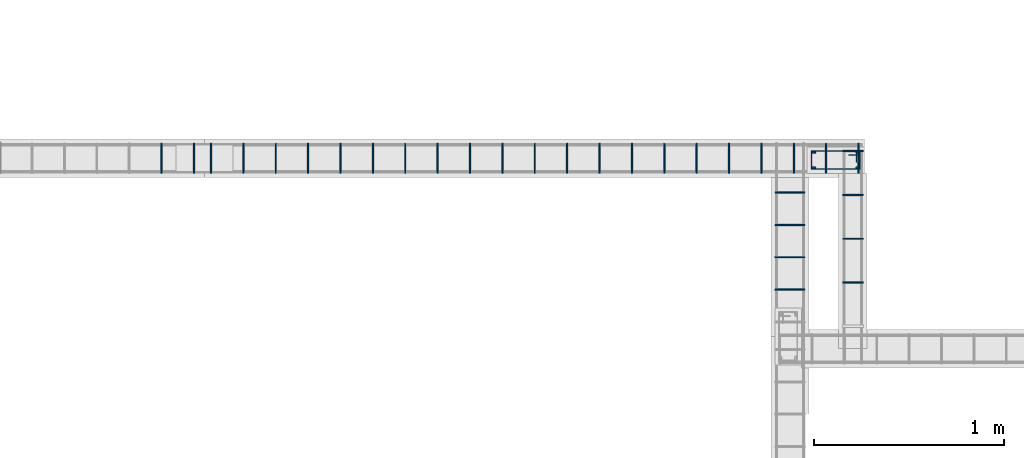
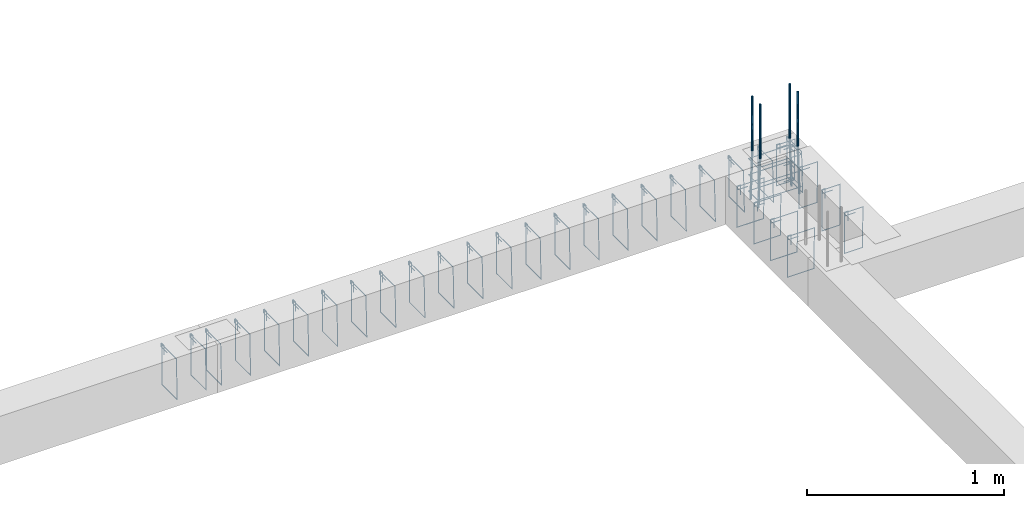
# One storey, part 139 of 150: 38 reinforcing bars.
"""IFC4 building model written with IfcOpenShell, lengths in centimetres."""

from ifc_helpers import new_model, entity, si_unit, derived_unit, frame, origin_with_axes, place, context, project, spatial, source, transform, mapped, element, save


model = new_model("IFC4")

# Units and contexts
model_context = context("Model", 3, precision=1e-05, world=origin_with_axes(), identifier="Body")
ifc_project = project(units=[si_unit("LENGTHUNIT", "METRE", prefix="CENTI"), si_unit("VOLUMEUNIT", "CUBIC_METRE"), si_unit("AREAUNIT", "SQUARE_METRE"), si_unit("POWERUNIT", "WATT"), si_unit("LUMINOUSFLUXUNIT", "LUMEN"), si_unit("ELECTRICCURRENTUNIT", "AMPERE"), si_unit("PRESSUREUNIT", "PASCAL", prefix="KILO"), si_unit("MASSUNIT", "GRAM", prefix="KILO"), si_unit("PLANEANGLEUNIT", "RADIAN"), derived_unit("VOLUMETRICFLOWRATEUNIT", [(si_unit("LENGTHUNIT", "METRE"), 3), (si_unit("TIMEUNIT", "SECOND"), -1)])], contexts=[model_context])

# Site, building, storey
site_placement = place(None, frame((-4000.0, 0.0, 0.0), z_axis=(0.0, 0.0, 1.0), x_axis=(1.0, 0.0, 0.0)))
site = spatial("IfcSite", under=ifc_project, at=site_placement, Name="PADRÃO")
building_placement = place(site_placement, frame((0.0, 0.0, -14.0)))
building = spatial("IfcBuilding", under=site, at=building_placement, Name="CRECHE PRÉ-ESCOLA TIPO 2")
placement = place(building_placement, origin_with_axes())
storey_placement = place(placement, frame((0.0, 0.0, 30.0), z_axis=(0.0, 0.0, 1.0), x_axis=(1.0, 0.0, 0.0)))
storey = spatial("IfcBuildingStorey", under=building, at=storey_placement, Name="VIGA BALDRAME", CompositionType="ELEMENT", Elevation=16.0)

# Reinforcing bars
shared_shape_1 = source(origin_with_axes(), model_context, "Body", "AdvancedSweptSolid", [
    entity("IfcSweptDiskSolid", entity("IfcCompositeCurve", [entity("IfcCompositeCurveSegment", "CONTINUOUS", True, entity("IfcPolyline", [entity("IfcCartesianPoint", [4.25, 21.75, 0.0]), entity("IfcCartesianPoint", [4.25, 27.75, 0.0])])), entity("IfcCompositeCurveSegment", "CONTINUOUS", True, entity("IfcPolyline", [entity("IfcCartesianPoint", [4.25, 27.75, 0.0]), entity("IfcCartesianPoint", [2.25, 27.75, 0.0])])), entity("IfcCompositeCurveSegment", "CONTINUOUS", True, entity("IfcPolyline", [entity("IfcCartesianPoint", [2.25, 27.75, 0.0]), entity("IfcCartesianPoint", [2.25, 2.25, 0.0])])), entity("IfcCompositeCurveSegment", "CONTINUOUS", True, entity("IfcPolyline", [entity("IfcCartesianPoint", [2.25, 2.25, 0.0]), entity("IfcCartesianPoint", [11.75, 2.25, 0.0])])), entity("IfcCompositeCurveSegment", "CONTINUOUS", True, entity("IfcPolyline", [entity("IfcCartesianPoint", [11.75, 2.25, 0.0]), entity("IfcCartesianPoint", [11.75, 27.75, -0.5])])), entity("IfcCompositeCurveSegment", "CONTINUOUS", True, entity("IfcPolyline", [entity("IfcCartesianPoint", [11.75, 27.75, -0.5]), entity("IfcCartesianPoint", [2.25, 27.75, -0.5])])), entity("IfcCompositeCurveSegment", "CONTINUOUS", True, entity("IfcPolyline", [entity("IfcCartesianPoint", [2.25, 27.75, -0.5]), entity("IfcCartesianPoint", [2.25, 25.75, -0.5])])), entity("IfcCompositeCurveSegment", "CONTINUOUS", True, entity("IfcPolyline", [entity("IfcCartesianPoint", [2.25, 25.75, -0.5]), entity("IfcCartesianPoint", [8.25, 25.75, -0.5])]))], False), 0.25),
])
for number, where, z_axis, x_axis, name in (
    (1, (3148.5, 4091.02, -15.0), (0.0, 0.0, 1.0), (0.0, -1.0, 0.0), "P22 - Estribo"),
    (2, (3148.5, 4091.02, -25.0), (0.0, 0.0, 1.0), (0.0, -1.0, 0.0), "P22 - Estribo"),
    (3, (3148.5, 4091.02, -5.0), (0.0, 0.0, 1.0), (0.0, -1.0, 0.0), "P22 - Estribo"),
):
    element("IfcReinforcingBar", number, at=place(storey_placement, frame(where, z_axis=z_axis, x_axis=x_axis)), inside=storey, Name=name, BarLength=0.0, CrossSectionArea=1.9634954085e-05, NominalDiameter=0.5, PredefinedType="MAIN", context=model_context, shape_type="MappedRepresentation", body=[
        mapped(shared_shape_1, transform((0.0, 0.0, 0.0), scale=1.0)),
    ])
shared_shape_2 = source(origin_with_axes(), model_context, "Body", "AdvancedSweptSolid", [
    entity("IfcSweptDiskSolid", entity("IfcCompositeCurve", [entity("IfcCompositeCurveSegment", "CONTINUOUS", True, entity("IfcPolyline", [entity("IfcCartesianPoint", [2.0, -6.0, 0.0]), entity("IfcCartesianPoint", [2.0, 0.0, 0.0])])), entity("IfcCompositeCurveSegment", "CONTINUOUS", True, entity("IfcPolyline", [entity("IfcCartesianPoint", [2.0, 0.0, 0.0]), entity("IfcCartesianPoint", [0.0, 0.0, 0.0])])), entity("IfcCompositeCurveSegment", "CONTINUOUS", True, entity("IfcPolyline", [entity("IfcCartesianPoint", [0.0, 0.0, 0.0]), entity("IfcCartesianPoint", [0.0, -25.5, 0.0])])), entity("IfcCompositeCurveSegment", "CONTINUOUS", True, entity("IfcPolyline", [entity("IfcCartesianPoint", [0.0, -25.5, 0.0]), entity("IfcCartesianPoint", [15.5, -25.5, 0.0])])), entity("IfcCompositeCurveSegment", "CONTINUOUS", True, entity("IfcPolyline", [entity("IfcCartesianPoint", [15.5, -25.5, 0.0]), entity("IfcCartesianPoint", [15.5, 0.0, 0.5])])), entity("IfcCompositeCurveSegment", "CONTINUOUS", True, entity("IfcPolyline", [entity("IfcCartesianPoint", [15.5, 0.0, 0.5]), entity("IfcCartesianPoint", [0.0, 0.0, 0.5])])), entity("IfcCompositeCurveSegment", "CONTINUOUS", True, entity("IfcPolyline", [entity("IfcCartesianPoint", [0.0, 0.0, 0.5]), entity("IfcCartesianPoint", [0.0, -2.0, 0.5])])), entity("IfcCompositeCurveSegment", "CONTINUOUS", True, entity("IfcPolyline", [entity("IfcCartesianPoint", [0.0, -2.0, 0.5]), entity("IfcCartesianPoint", [6.0, -2.0, 0.5])]))], False), 0.25),
])
for number, where, z_axis, x_axis, name in (
    (4, (2826.74, 4092.77, -2.25), (-1.0, 0.0, 0.0), (0.0, -1.0, 0.0), "V103 - Estribo"),
    (5, (2809.74, 4092.77, -2.25), (-1.0, 0.0, 0.0), (0.0, -1.0, 0.0), "V103 - Estribo"),
):
    element("IfcReinforcingBar", number, at=place(storey_placement, frame(where, z_axis=z_axis, x_axis=x_axis)), inside=storey, Name=name, BarLength=0.0, CrossSectionArea=1.9634954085e-05, NominalDiameter=0.5, PredefinedType="MAIN", context=model_context, shape_type="MappedRepresentation", body=[
        mapped(shared_shape_2, transform((0.0, 0.0, 0.0), scale=1.0)),
    ])
shared_shape_3 = source(origin_with_axes(), model_context, "Body", "AdvancedSweptSolid", [
    entity("IfcSweptDiskSolid", entity("IfcCompositeCurve", [entity("IfcCompositeCurveSegment", "CONTINUOUS", True, entity("IfcPolyline", [entity("IfcCartesianPoint", [2.0, -6.0, 0.0]), entity("IfcCartesianPoint", [2.0, 0.0, 0.0])])), entity("IfcCompositeCurveSegment", "CONTINUOUS", True, entity("IfcPolyline", [entity("IfcCartesianPoint", [2.0, 0.0, 0.0]), entity("IfcCartesianPoint", [0.0, 0.0, 0.0])])), entity("IfcCompositeCurveSegment", "CONTINUOUS", True, entity("IfcPolyline", [entity("IfcCartesianPoint", [0.0, 0.0, 0.0]), entity("IfcCartesianPoint", [0.0, -25.5, 0.0])])), entity("IfcCompositeCurveSegment", "CONTINUOUS", True, entity("IfcPolyline", [entity("IfcCartesianPoint", [0.0, -25.5, 0.0]), entity("IfcCartesianPoint", [15.5, -25.5, 0.0])])), entity("IfcCompositeCurveSegment", "CONTINUOUS", True, entity("IfcPolyline", [entity("IfcCartesianPoint", [15.5, -25.5, 0.0]), entity("IfcCartesianPoint", [15.5, 0.0, 0.5])])), entity("IfcCompositeCurveSegment", "CONTINUOUS", True, entity("IfcPolyline", [entity("IfcCartesianPoint", [15.5, 0.0, 0.5]), entity("IfcCartesianPoint", [0.0, 0.0, 0.5])])), entity("IfcCompositeCurveSegment", "CONTINUOUS", True, entity("IfcPolyline", [entity("IfcCartesianPoint", [0.0, 0.0, 0.5]), entity("IfcCartesianPoint", [0.0, -2.0, 0.5])])), entity("IfcCompositeCurveSegment", "CONTINUOUS", True, entity("IfcPolyline", [entity("IfcCartesianPoint", [0.0, -2.0, 0.5]), entity("IfcCartesianPoint", [6.0, -2.0, 0.5])]))], False), 0.25),
])
for number, where, z_axis, x_axis, name in (
    (6, (2852.705, 4092.77, -2.25), (-1.0, 0.0, 0.0), (0.0, -1.0, 0.0), "V103 - Estribo"),
    (7, (2835.705, 4092.77, -2.25), (-1.0, 0.0, 0.0), (0.0, -1.0, 0.0), "V103 - Estribo"),
    (8, (3022.705, 4092.77, -2.25), (-1.0, 0.0, 0.0), (0.0, -1.0, 0.0), "V103 - Estribo"),
    (9, (3005.705, 4092.77, -2.25), (-1.0, 0.0, 0.0), (0.0, -1.0, 0.0), "V103 - Estribo"),
    (10, (2988.705, 4092.77, -2.25), (-1.0, 0.0, 0.0), (0.0, -1.0, 0.0), "V103 - Estribo"),
    (11, (3124.705, 4092.77, -2.25), (-1.0, 0.0, 0.0), (0.0, -1.0, 0.0), "V103 - Estribo"),
    (12, (3039.705, 4092.77, -2.25), (-1.0, 0.0, 0.0), (0.0, -1.0, 0.0), "V103 - Estribo"),
    (13, (2920.705, 4092.77, -2.25), (-1.0, 0.0, 0.0), (0.0, -1.0, 0.0), "V103 - Estribo"),
    (14, (2869.705, 4092.77, -2.25), (-1.0, 0.0, 0.0), (0.0, -1.0, 0.0), "V103 - Estribo"),
    (15, (3056.705, 4092.77, -2.25), (-1.0, 0.0, 0.0), (0.0, -1.0, 0.0), "V103 - Estribo"),
    (16, (3073.705, 4092.77, -2.25), (-1.0, 0.0, 0.0), (0.0, -1.0, 0.0), "V103 - Estribo"),
    (17, (2971.705, 4092.77, -2.25), (-1.0, 0.0, 0.0), (0.0, -1.0, 0.0), "V103 - Estribo"),
    (18, (2954.705, 4092.77, -2.25), (-1.0, 0.0, 0.0), (0.0, -1.0, 0.0), "V103 - Estribo"),
    (19, (2886.705, 4092.77, -2.25), (-1.0, 0.0, 0.0), (0.0, -1.0, 0.0), "V103 - Estribo"),
    (20, (2903.705, 4092.77, -2.25), (-1.0, 0.0, 0.0), (0.0, -1.0, 0.0), "V103 - Estribo"),
    (21, (2937.705, 4092.77, -2.25), (-1.0, 0.0, 0.0), (0.0, -1.0, 0.0), "V103 - Estribo"),
    (22, (3141.705, 4092.77, -2.25), (-1.0, 0.0, 0.0), (0.0, -1.0, 0.0), "V103 - Estribo"),
    (23, (3158.705, 4092.77, -2.25), (-1.0, 0.0, 0.0), (0.0, -1.0, 0.0), "V103 - Estribo"),
    (24, (3175.705, 4092.77, -2.25), (-1.0, 0.0, 0.0), (0.0, -1.0, 0.0), "V103 - Estribo"),
    (25, (3107.705, 4092.77, -2.25), (-1.0, 0.0, 0.0), (0.0, -1.0, 0.0), "V103 - Estribo"),
    (26, (3090.705, 4092.77, -2.25), (-1.0, 0.0, 0.0), (0.0, -1.0, 0.0), "V103 - Estribo"),
):
    element("IfcReinforcingBar", number, at=place(storey_placement, frame(where, z_axis=z_axis, x_axis=x_axis)), inside=storey, Name=name, BarLength=0.0, CrossSectionArea=1.9634954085e-05, NominalDiameter=0.5, PredefinedType="MAIN", context=model_context, shape_type="MappedRepresentation", body=[
        mapped(shared_shape_3, transform((0.0, 0.0, 0.0), scale=1.0)),
    ])
shared_shape_4 = source(origin_with_axes(), model_context, "Body", "AdvancedSweptSolid", [
    entity("IfcSweptDiskSolid", entity("IfcCompositeCurve", [entity("IfcCompositeCurveSegment", "CONTINUOUS", True, entity("IfcPolyline", [entity("IfcCartesianPoint", [2.0, -6.0, 0.0]), entity("IfcCartesianPoint", [2.0, 0.0, 0.0])])), entity("IfcCompositeCurveSegment", "CONTINUOUS", True, entity("IfcPolyline", [entity("IfcCartesianPoint", [2.0, 0.0, 0.0]), entity("IfcCartesianPoint", [0.0, 0.0, 0.0])])), entity("IfcCompositeCurveSegment", "CONTINUOUS", True, entity("IfcPolyline", [entity("IfcCartesianPoint", [0.0, 0.0, 0.0]), entity("IfcCartesianPoint", [0.0, -25.5, 0.0])])), entity("IfcCompositeCurveSegment", "CONTINUOUS", True, entity("IfcPolyline", [entity("IfcCartesianPoint", [0.0, -25.5, 0.0]), entity("IfcCartesianPoint", [10.5, -25.5, 0.0])])), entity("IfcCompositeCurveSegment", "CONTINUOUS", True, entity("IfcPolyline", [entity("IfcCartesianPoint", [10.5, -25.5, 0.0]), entity("IfcCartesianPoint", [10.5, 0.0, 0.5])])), entity("IfcCompositeCurveSegment", "CONTINUOUS", True, entity("IfcPolyline", [entity("IfcCartesianPoint", [10.5, 0.0, 0.5]), entity("IfcCartesianPoint", [0.0, 0.0, 0.5])])), entity("IfcCompositeCurveSegment", "CONTINUOUS", True, entity("IfcPolyline", [entity("IfcCartesianPoint", [0.0, 0.0, 0.5]), entity("IfcCartesianPoint", [0.0, -2.0, 0.5])])), entity("IfcCompositeCurveSegment", "CONTINUOUS", True, entity("IfcPolyline", [entity("IfcCartesianPoint", [0.0, -2.0, 0.5]), entity("IfcCartesianPoint", [6.0, -2.0, 0.5])]))], False), 0.25),
])
for number, where, z_axis, x_axis, name in (
    (27, (3167.25, 4020.015, -2.25), (0.0, -1.0, 0.0), (1.0, 0.0, 0.0), "V222 - Estribo"),
    (28, (3167.25, 4066.015, -2.25), (0.0, -1.0, 0.0), (1.0, 0.0, 0.0), "V222 - Estribo"),
    (29, (3167.25, 4089.015, -2.25), (0.0, -1.0, 0.0), (1.0, 0.0, 0.0), "V222 - Estribo"),
    (30, (3167.25, 4043.015, -2.25), (0.0, -1.0, 0.0), (1.0, 0.0, 0.0), "V222 - Estribo"),
):
    element("IfcReinforcingBar", number, at=place(storey_placement, frame(where, z_axis=z_axis, x_axis=x_axis)), inside=storey, Name=name, BarLength=0.0, CrossSectionArea=1.9634954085e-05, NominalDiameter=0.5, PredefinedType="MAIN", context=model_context, shape_type="MappedRepresentation", body=[
        mapped(shared_shape_4, transform((0.0, 0.0, 0.0), scale=1.0)),
    ])
shared_shape_5 = source(origin_with_axes(), model_context, "Body", "AdvancedSweptSolid", [
    entity("IfcSweptDiskSolid", entity("IfcCompositeCurve", [entity("IfcCompositeCurveSegment", "CONTINUOUS", True, entity("IfcPolyline", [entity("IfcCartesianPoint", [2.0, -6.0, 0.0]), entity("IfcCartesianPoint", [2.0, 0.0, 0.0])])), entity("IfcCompositeCurveSegment", "CONTINUOUS", True, entity("IfcPolyline", [entity("IfcCartesianPoint", [2.0, 0.0, 0.0]), entity("IfcCartesianPoint", [0.0, 0.0, 0.0])])), entity("IfcCompositeCurveSegment", "CONTINUOUS", True, entity("IfcPolyline", [entity("IfcCartesianPoint", [0.0, 0.0, 0.0]), entity("IfcCartesianPoint", [0.0, -25.5, 0.0])])), entity("IfcCompositeCurveSegment", "CONTINUOUS", True, entity("IfcPolyline", [entity("IfcCartesianPoint", [0.0, -25.5, 0.0]), entity("IfcCartesianPoint", [15.5, -25.5, 0.0])])), entity("IfcCompositeCurveSegment", "CONTINUOUS", True, entity("IfcPolyline", [entity("IfcCartesianPoint", [15.5, -25.5, 0.0]), entity("IfcCartesianPoint", [15.5, 0.0, 0.5])])), entity("IfcCompositeCurveSegment", "CONTINUOUS", True, entity("IfcPolyline", [entity("IfcCartesianPoint", [15.5, 0.0, 0.5]), entity("IfcCartesianPoint", [0.0, 0.0, 0.5])])), entity("IfcCompositeCurveSegment", "CONTINUOUS", True, entity("IfcPolyline", [entity("IfcCartesianPoint", [0.0, 0.0, 0.5]), entity("IfcCartesianPoint", [0.0, -2.0, 0.5])])), entity("IfcCompositeCurveSegment", "CONTINUOUS", True, entity("IfcPolyline", [entity("IfcCartesianPoint", [0.0, -2.0, 0.5]), entity("IfcCartesianPoint", [6.0, -2.0, 0.5])]))], False), 0.25),
])
for number, where, z_axis, x_axis, name in (
    (31, (3131.68, 4016.265, -2.25), (0.0, -1.0, 0.0), (1.0, 0.0, 0.0), "V221 - Estribo"),
    (32, (3131.68, 4033.265, -2.25), (0.0, -1.0, 0.0), (1.0, 0.0, 0.0), "V221 - Estribo"),
    (33, (3131.68, 4050.265, -2.25), (0.0, -1.0, 0.0), (1.0, 0.0, 0.0), "V221 - Estribo"),
    (34, (3131.68, 4067.265, -2.25), (0.0, -1.0, 0.0), (1.0, 0.0, 0.0), "V221 - Estribo"),
):
    element("IfcReinforcingBar", number, at=place(storey_placement, frame(where, z_axis=z_axis, x_axis=x_axis)), inside=storey, Name=name, BarLength=0.0, CrossSectionArea=1.9634954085e-05, NominalDiameter=0.5, PredefinedType="MAIN", context=model_context, shape_type="MappedRepresentation", body=[
        mapped(shared_shape_5, transform((0.0, 0.0, 0.0), scale=1.0)),
    ])
for number, where, z_axis, x_axis, name in (
    (35, (3152.00013877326, 4088.02, 33.3573001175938), (0.0, 0.0, 1.0), (1.0, 0.0, 0.0), "P22 - Longitudinal"),
    (36, (3152.00013877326, 4080.02, 33.3573001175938), (0.0, 0.0, 1.0), (1.0, 0.0, 0.0), "P22 - Longitudinal"),
):
    element("IfcReinforcingBar", number, at=place(storey_placement, frame(where, z_axis=z_axis, x_axis=x_axis)), inside=storey, Name=name, BarLength=0.0, CrossSectionArea=7.853981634e-05, NominalDiameter=1.0, PredefinedType="MAIN", context=model_context, shape_type="AdvancedSweptSolid", body=[
        entity("IfcSweptDiskSolid", entity("IfcCompositeCurve", [entity("IfcCompositeCurveSegment", "CONTINUOUS", True, entity("IfcPolyline", [entity("IfcCartesianPoint", [-0.500138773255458, 0.0, -63.3573001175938]), entity("IfcCartesianPoint", [0.499861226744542, 0.0, -33.3573001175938])])), entity("IfcCompositeCurveSegment", "CONTINUOUS", True, entity("IfcPolyline", [entity("IfcCartesianPoint", [0.499861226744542, 0.0, -33.3573001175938]), entity("IfcCartesianPoint", [0.499861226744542, 0.0, 0.0])]))], False), 0.5),
    ])
for number, where, z_axis, x_axis, name in (
    (37, (3174.99986122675, 4088.02, 33.3573001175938), (0.0, 0.0, 1.0), (1.0, 0.0, 0.0), "P22 - Longitudinal"),
    (38, (3174.99986122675, 4080.02, 33.3573001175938), (0.0, 0.0, 1.0), (1.0, 0.0, 0.0), "P22 - Longitudinal"),
):
    element("IfcReinforcingBar", number, at=place(storey_placement, frame(where, z_axis=z_axis, x_axis=x_axis)), inside=storey, Name=name, BarLength=0.0, CrossSectionArea=7.853981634e-05, NominalDiameter=1.0, PredefinedType="MAIN", context=model_context, shape_type="AdvancedSweptSolid", body=[
        entity("IfcSweptDiskSolid", entity("IfcCompositeCurve", [entity("IfcCompositeCurveSegment", "CONTINUOUS", True, entity("IfcPolyline", [entity("IfcCartesianPoint", [0.500138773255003, 0.0, -63.3573001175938]), entity("IfcCartesianPoint", [-0.499861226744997, 0.0, -33.3573001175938])])), entity("IfcCompositeCurveSegment", "CONTINUOUS", True, entity("IfcPolyline", [entity("IfcCartesianPoint", [-0.499861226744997, 0.0, -33.3573001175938]), entity("IfcCartesianPoint", [-0.499861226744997, 0.0, 0.0])]))], False), 0.5),
    ])

save(model, "model.ifc")
